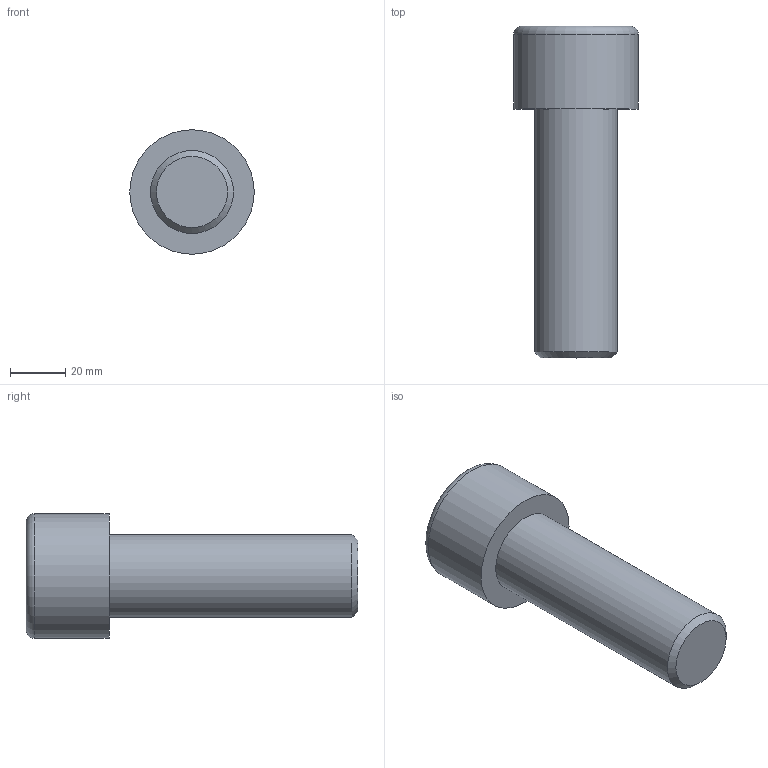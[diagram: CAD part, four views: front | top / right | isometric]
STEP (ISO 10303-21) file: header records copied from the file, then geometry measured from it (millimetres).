
FILE_DESCRIPTION(/* description */ (''),/* implementation_level */ '2;1');
FILE_NAME(/* name */ 'C:\Users\D\Documents\Inventor\各種小物\JIS\JIS B 1176 六角穴付きボルト\M30x90.stp',/* time_stamp */ '2022-05-09T19:01:55+09:00',/* author */ ('D'),/* organization */ (''),/* preprocessor_version */ 'ST-DEVELOPER v18',/* originating_system */ 'Autodesk Inventor 2020',/* authorisation */ '');
FILE_SCHEMA (('AUTOMOTIVE_DESIGN { 1 0 10303 214 3 1 1 }'));
Length unit declared in the file: millimetre
Products named in the file (1): M1.6x2.5
Bounding box: 45 x 120 x 45 mm (x, y, z)
Volume: 103156 mm3; surface area: 16888.9 mm2
Topology: 1 solids, 1 shells, 14 faces, 33 edges, 22 vertices
Faces by surface type: plane 9, cone 2, cylinder 2, torus 1
Full cylindrical faces by diameter (mm): 30 x1, 45 x1
Entity records: 435 total; most frequent: CARTESIAN_POINT 83, ORIENTED_EDGE 64, DIRECTION 64, EDGE_CURVE 32, AXIS2_PLACEMENT_3D 24, VERTEX_POINT 22, EDGE_LOOP 16, LINE 16
